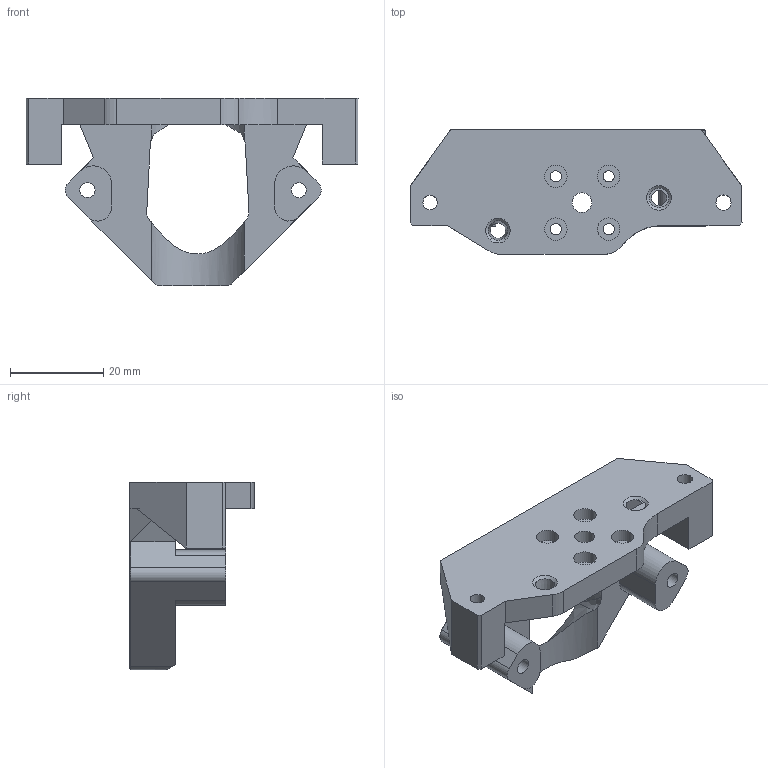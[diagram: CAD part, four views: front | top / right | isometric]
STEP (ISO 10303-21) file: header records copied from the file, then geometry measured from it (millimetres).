
FILE_DESCRIPTION(/* description */ (''),/* implementation_level */ '2;1');
FILE_NAME(/* name */ 'C:/Users/Martin/Documents/icarus-2.1/icarus-2-current-step-files/2-mounts/mount-orbiter-1.5-rapido-hf-2.1.step',/* time_stamp */ '2022-08-22T19:11:06+02:00',/* author */ (''),/* organization */ (''),/* preprocessor_version */ 'ST-DEVELOPER v19',/* originating_system */ 'Autodesk Translation Framework v11.7.0.108',/* authorisation */ '');
FILE_SCHEMA (('AUTOMOTIVE_DESIGN { 1 0 10303 214 3 1 1 }'));
Length unit declared in the file: millimetre
Products named in the file (1): mount-rapido
Bounding box: 71.07 x 26.66 x 40.18 mm (x, y, z)
Volume: 16817.8 mm3; surface area: 9287 mm2
Topology: 1 solids, 1 shells, 105 faces, 283 edges, 183 vertices
Faces by surface type: plane 43, cylinder 28, bspline 22, cone 12
Full cylindrical faces by diameter (mm): 2.4 x4, 3.1 x1, 3.25 x5, 4.2 x1, 4.8 x4
Entity records: 4105 total; most frequent: CARTESIAN_POINT 1496, ORIENTED_EDGE 566, DIRECTION 467, EDGE_CURVE 283, VERTEX_POINT 183, LINE 159, VECTOR 159, AXIS2_PLACEMENT_3D 154
